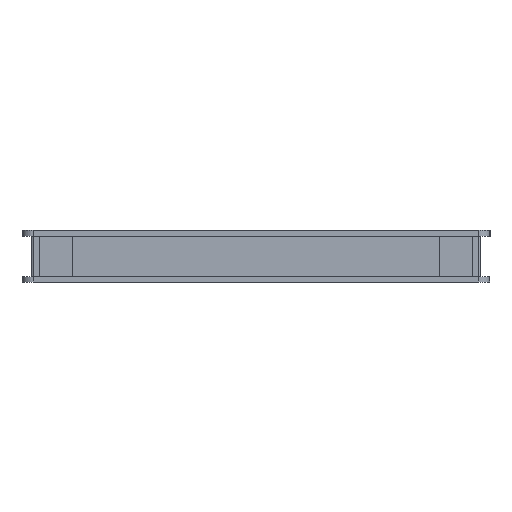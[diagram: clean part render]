
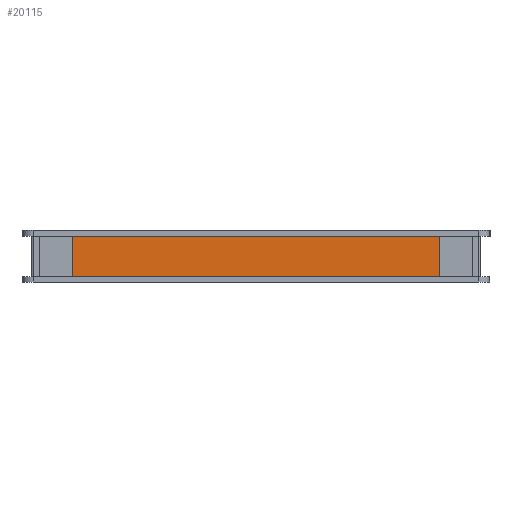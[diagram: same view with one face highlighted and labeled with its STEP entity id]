
A CAD part, left-side view. The second image highlights one B-rep face of the part: STEP entity #20115.
In plain terms, the highlighted planar face has unit normal (-1, 0, 0).
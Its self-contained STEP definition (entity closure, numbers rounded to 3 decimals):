
#2464 = ORIENTED_EDGE ( 'NONE', *, *, #28866, .T. ) ;
#6405 = ORIENTED_EDGE ( 'NONE', *, *, #33602, .T. ) ;
#6700 = CARTESIAN_POINT ( 'NONE',  ( -575.983, -173.14, -131.045 ) ) ;
#8781 = CARTESIAN_POINT ( 'NONE',  ( -575.983, 242.86, -92.045 ) ) ;
#12055 = EDGE_CURVE ( 'NONE', #17206, #19826, #33269, .T. ) ;
#12151 = VERTEX_POINT ( 'NONE', #13878 ) ;
#13336 = CARTESIAN_POINT ( 'NONE',  ( -575.983, -173.14, -131.045 ) ) ;
#13878 = CARTESIAN_POINT ( 'NONE',  ( -575.983, 242.86, -131.045 ) ) ;
#14329 = ORIENTED_EDGE ( 'NONE', *, *, #12055, .T. ) ;
#15178 = PLANE ( 'NONE',  #22999 ) ;
#16192 = VECTOR ( 'NONE', #33893, 1000. ) ;
#17206 = VERTEX_POINT ( 'NONE', #6700 ) ;
#17341 = ORIENTED_EDGE ( 'NONE', *, *, #19274, .T. ) ;
#18963 = LINE ( 'NONE', #13336, #20031 ) ;
#19274 = EDGE_CURVE ( 'NONE', #31753, #12151, #41642, .T. ) ;
#19826 = VERTEX_POINT ( 'NONE', #37187 ) ;
#20031 = VECTOR ( 'NONE', #23449, 1000. ) ;
#20115 = ADVANCED_FACE ( 'NONE', ( #20175 ), #15178, .F. ) ;
#20175 = FACE_OUTER_BOUND ( 'NONE', #33097, .T. ) ;
#21723 = DIRECTION ( 'NONE',  ( 0., -1., 0. ) ) ;
#22999 = AXIS2_PLACEMENT_3D ( 'NONE', #31877, #25450, #21723 ) ;
#23449 = DIRECTION ( 'NONE',  ( 0., -1., 0. ) ) ;
#25450 = DIRECTION ( 'NONE',  ( 1., 0., 0. ) ) ;
#28866 = EDGE_CURVE ( 'NONE', #19826, #31753, #43579, .T. ) ;
#31753 = VERTEX_POINT ( 'NONE', #8781 ) ;
#31877 = CARTESIAN_POINT ( 'NONE',  ( -575.983, 34.86, -111.545 ) ) ;
#33097 = EDGE_LOOP ( 'NONE', ( #17341, #6405, #14329, #2464 ) ) ;
#33269 = LINE ( 'NONE', #37801, #16192 ) ;
#33602 = EDGE_CURVE ( 'NONE', #12151, #17206, #18963, .T. ) ;
#33893 = DIRECTION ( 'NONE',  ( 0., 0., 1. ) ) ;
#34689 = VECTOR ( 'NONE', #38648, 1000. ) ;
#35081 = CARTESIAN_POINT ( 'NONE',  ( -575.983, 242.86, -92.045 ) ) ;
#35237 = DIRECTION ( 'NONE',  ( 0., 1., 0. ) ) ;
#37173 = VECTOR ( 'NONE', #35237, 1000. ) ;
#37187 = CARTESIAN_POINT ( 'NONE',  ( -575.983, -173.14, -92.045 ) ) ;
#37801 = CARTESIAN_POINT ( 'NONE',  ( -575.983, -173.14, -92.045 ) ) ;
#38648 = DIRECTION ( 'NONE',  ( 0., 0., -1. ) ) ;
#39137 = CARTESIAN_POINT ( 'NONE',  ( -575.983, -173.14, -92.045 ) ) ;
#41642 = LINE ( 'NONE', #35081, #34689 ) ;
#43579 = LINE ( 'NONE', #39137, #37173 ) ;
